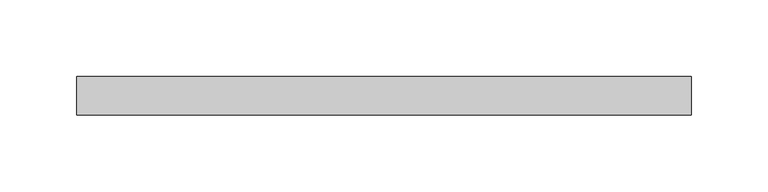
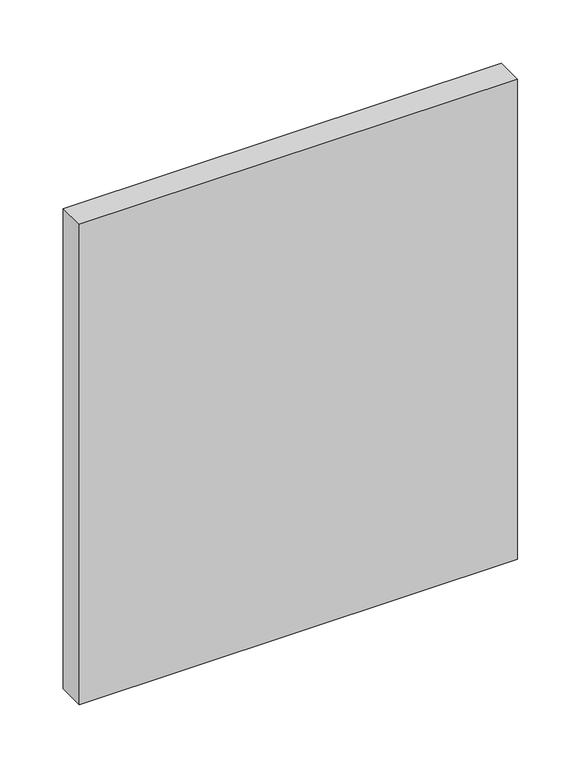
"""IFC4 building model written with IfcOpenShell, lengths in millimetres: plate geometry, Системная панель : С остеклением."""

from ifc_helpers import new_model, si_unit, origin, origin_with_axes, place, context, project, spatial, polyline, outline, extrude, source, transform, mapped, element, save


def plate_08f496c8(model_context):
    return source(origin(), model_context, "Body", "SweptSolid", [
        extrude(outline(polyline([(199.9999998, 24.5), (-199.9999998, 24.5), (-199.9999998, 49.5), (199.9999998, 49.5), (199.9999998, 24.5)])), origin_with_axes(), (0.0, 0.0, 1.0), 463.2361077),
    ])


if __name__ == "__main__":
    model = new_model("IFC4")
    model_context = context("Model", 3, world=origin())
    ifc_project = project(units=[si_unit("LENGTHUNIT", "METRE", prefix="MILLI")], contexts=[model_context])
    site = spatial("IfcSite", under=ifc_project)
    building = spatial("IfcBuilding", under=site)
    placement = place(None, origin())
    plate_shape = plate_08f496c8(model_context)
    element("IfcPlate", 1, ObjectType="Системная панель : С остеклением", at=placement, inside=building, context=model_context, shape_type="MappedRepresentation", body=[
        mapped(plate_shape, transform((0.0, 0.0, 0.0), x_axis=(1.0, 0.0, 0.0), y_axis=(0.0, 1.0, 0.0), z_axis=(0.0, 0.0, 1.0))),
    ])
    save(model, "model.ifc")
